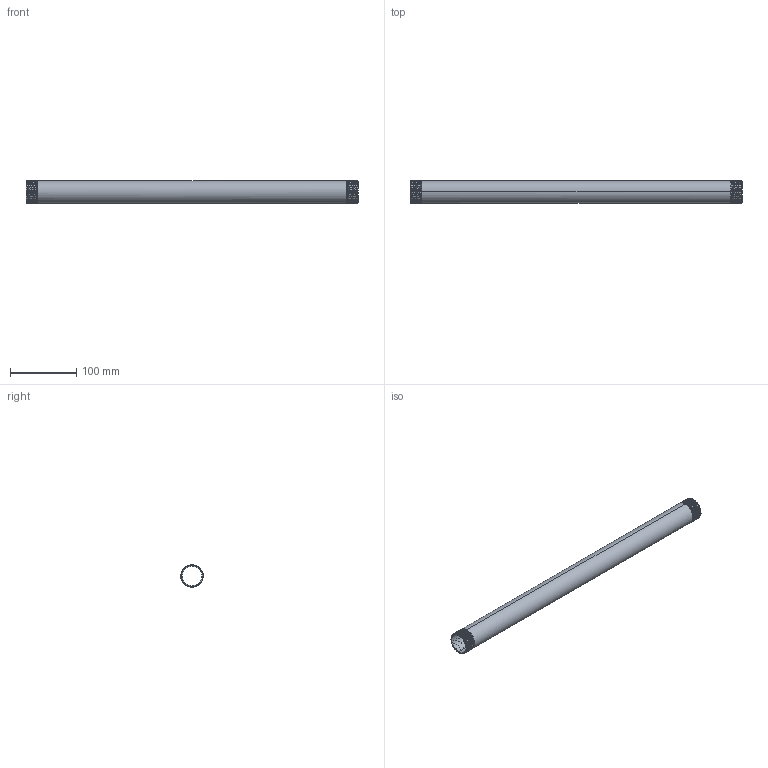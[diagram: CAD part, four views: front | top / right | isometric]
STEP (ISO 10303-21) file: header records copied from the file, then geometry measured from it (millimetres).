
FILE_DESCRIPTION (( 'STEP AP203' ), '1' );
FILE_NAME ('3D_R210_1x500_17191525.STEP', '2024-08-16T14:37:54', ( '' ), ( '' ), 'SwSTEP 2.0', 'SolidWorks 2024', '' );
FILE_SCHEMA (( 'CONFIG_CONTROL_DESIGN' ));
Length unit declared in the file: millimetre
Products named in the file (1): 3D_R210_1x500_17191525
Bounding box: 500 x 33.69 x 33.7 mm (x, y, z)
Volume: 98431 mm3; surface area: 101742.7 mm2
Topology: 1 solids, 1 shells, 74 faces, 212 edges, 140 vertices
Faces by surface type: cone 60, bspline 6, cylinder 4, plane 4
Entity records: 12052 total; most frequent: CARTESIAN_POINT 10328, ORIENTED_EDGE 424, DIRECTION 224, EDGE_CURVE 212, VERTEX_POINT 140, B_SPLINE_CURVE_WITH_KNOTS 128, AXIS2_PLACEMENT_3D 79, EDGE_LOOP 76
